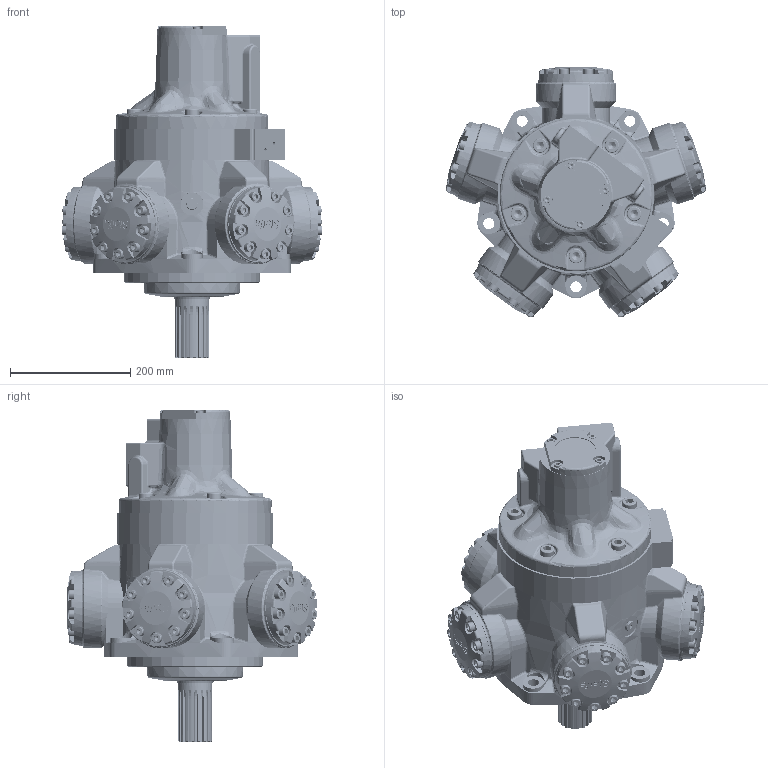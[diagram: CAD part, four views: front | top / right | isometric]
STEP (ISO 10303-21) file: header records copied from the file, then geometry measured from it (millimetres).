
FILE_DESCRIPTION((''),'2;1');
FILE_NAME('I:\3D Step files\Approved for WEB\Staffa\HMC045 S FM3 X 60.stp','2010-05-27T15:43:15',('mnorman'),(''),'Autodesk Inventor 2010','Autodesk Inventor 2010','');
FILE_SCHEMA(('AUTOMOTIVE_DESIGN { 1 0 10303 214 1 1 1 1 }'));
Length unit declared in the file: millimetre
Products named in the file (1): Part1
Bounding box: 433.51 x 415.9 x 551.7 mm (x, y, z)
Volume: 15218863.1 mm3; surface area: 1457402.2 mm2
Topology: 135 solids, 135 shells, 3580 faces, 8800 edges, 5664 vertices
Faces by surface type: plane 1333, bspline 1290, cylinder 518, cone 247, torus 172, sphere 20
Full cylindrical faces by diameter (mm): 6.2 x1, 7.938 x5, 10 x55, 10.5 x45, 10.8 x10, 11.913 x4, 12.7 x1, 13.157 x3, 15.875 x5, 16 x55, 16.272 x5, 16.7 x5, 17 x10, 18.5 x5, 19 x3, 22.2 x5, 23.825 x5, 25.4 x5, 27.68 x5, 28.677 x5, 31.75 x2, 38.1 x3, 38.176 x5, 38.18 x5, 56.35 x1, 63.475 x1, 65.1 x1, 67.564 x1, 68.58 x1, 71.952 x1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
Entity records: 136727 total; most frequent: CARTESIAN_POINT 61683, ORIENTED_EDGE 14898, DIRECTION 12104, EDGE_CURVE 7449, VERTEX_POINT 5202, EDGE_LOOP 4821, AXIS2_PLACEMENT_3D 4639, STYLED_ITEM 3660
